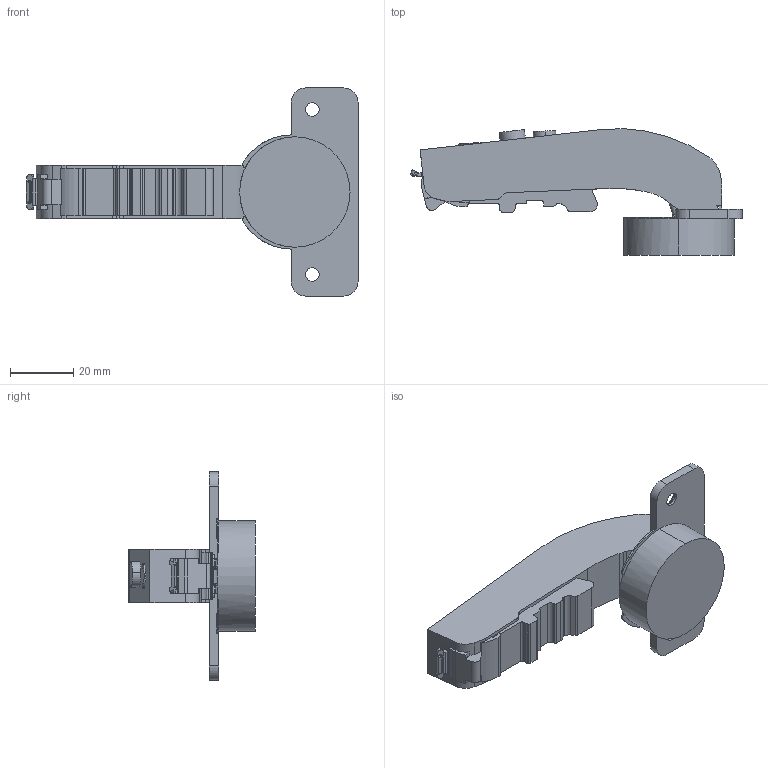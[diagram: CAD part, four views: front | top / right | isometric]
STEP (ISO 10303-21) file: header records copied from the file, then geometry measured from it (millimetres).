
FILE_DESCRIPTION (( 'STEP AP203' ), '1' );
FILE_NAME ('C81J876FAB DTC 3D CLOSE.STEP', '2024-07-22T00:53:16', ( '微软用户' ), ( '微软中国' ), 'SwSTEP 2.0', 'SolidWorks 2021', '' );
FILE_SCHEMA (( 'CONFIG_CONTROL_DESIGN' ));
Length unit declared in the file: millimetre
Products named in the file (1): C81J876FAB DTC 3D CLOSE
Bounding box: 104.64 x 39.87 x 65.6 mm (x, y, z)
Volume: 46982.5 mm3; surface area: 13143.4 mm2
Topology: 1 solids, 3 shells, 271 faces, 757 edges, 494 vertices
Faces by surface type: cylinder 119, plane 105, torus 28, bspline 15, cone 4
Entity records: 9077 total; most frequent: CARTESIAN_POINT 1985, ORIENTED_EDGE 1510, DIRECTION 1483, EDGE_CURVE 755, AXIS2_PLACEMENT_3D 547, VERTEX_POINT 494, LINE 389, VECTOR 389
